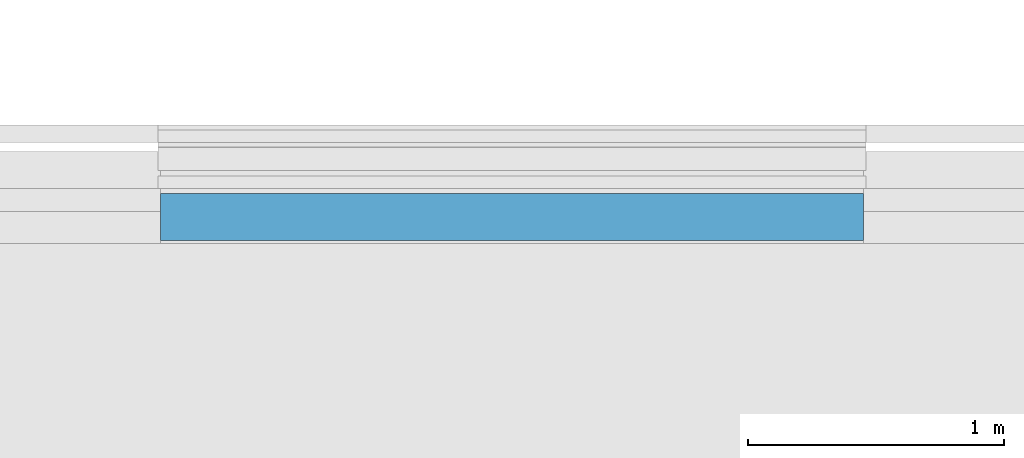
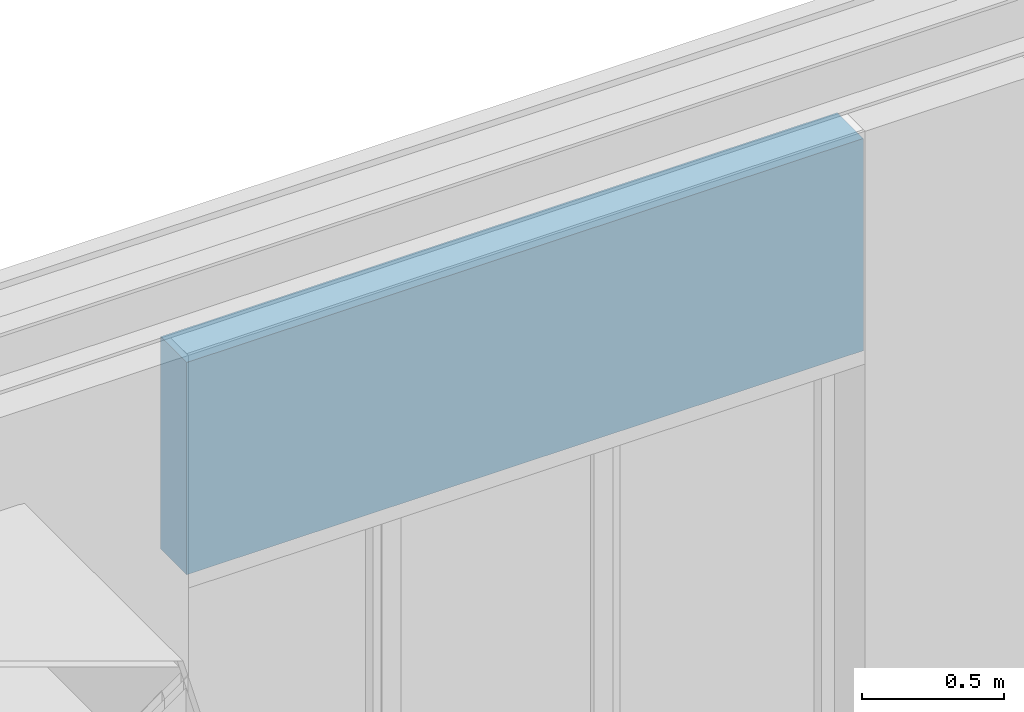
# One storey, part 84 of 165: 1 building element part, 1 element without a shape of its own.
"""IFC2X3 building model written with IfcOpenShell, lengths in millimetres."""

import ifcopenshell
import ifcopenshell.guid

model = None  # the IFC model being written
_history = None  # IfcOwnerHistory: only IFC2X3 demands one
_inside = {}  # id of a spatial element -> (the spatial element, [elements in it])
_under = {}  # id of a project, library or spatial element -> (it, [spatial elements below it])
_declared = {}  # id of a project -> (the project, [libraries it declares])
_typed = {}  # id of a type object -> (the type object, [elements of that type])
_made_of = {}  # id of a material, layer set ... -> (it, [elements and type objects made of it])


def new_model(schema):
    """Start an empty IFC model of exactly this schema.

    Asked for "IFC4X3", IfcOpenShell would pick the latest addendum, in which some entities
    have other attributes; the version numbers below select the first issue.
    IFC2X3 requires an IfcOwnerHistory on every rooted entity: one is made here for all.
    """
    global model, _history
    if schema == "IFC4X3":
        model = ifcopenshell.file(schema_version=(4, 3, 0, 0))
    else:
        model = ifcopenshell.file(schema=schema)
    _inside.clear()
    _under.clear()
    _declared.clear()
    _typed.clear()
    _made_of.clear()
    _history = None
    if model.schema == "IFC2X3":
        org = make("IfcOrganization", Name="unknown")
        user = make(
            "IfcPersonAndOrganization",
            ThePerson=make("IfcPerson", FamilyName="unknown"),
            TheOrganization=org,
        )
        app = make(
            "IfcApplication",
            ApplicationDeveloper=org,
            Version="unknown",
            ApplicationFullName="unknown",
            ApplicationIdentifier="unknown",
        )
        _history = make(
            "IfcOwnerHistory",
            OwningUser=user,
            OwningApplication=app,
            ChangeAction="ADDED",
            CreationDate=0,
        )
    return model


def make(cls, **values):
    """One entity of the class cls with the attributes given. An attribute that is None is left unset."""
    return model.create_entity(
        cls, **{name: value for name, value in values.items() if value is not None}
    )


def entity(cls, *values):
    """Any entity or typed value of the class cls, its attributes in the order of the schema. None: left unset."""
    e = model.create_entity(cls)
    for i, value in enumerate(values):
        if value is not None:
            e[i] = value
    return e


def rooted(cls, **values):
    """An entity with a GlobalId (a new one), such as an element, a storey or a relation."""
    return make(cls, GlobalId=ifcopenshell.guid.new(), OwnerHistory=_history, **values)


def si_unit(unit_type, name, prefix=None):
    """IfcSIUnit, for example si_unit("LENGTHUNIT", "METRE", prefix="MILLI")."""
    return make("IfcSIUnit", UnitType=unit_type, Prefix=prefix, Name=name)


def converted_unit(unit_type, name, factor, base, dimensions=None, offset=None):
    """IfcConversionBasedUnit, such as the inch: factor (a typed value) times the base unit."""
    return make(
        "IfcConversionBasedUnit"
        if offset is None
        else "IfcConversionBasedUnitWithOffset",
        ConversionOffset=offset,
        Dimensions=None
        if dimensions is None
        else entity("IfcDimensionalExponents", *dimensions),
        UnitType=unit_type,
        Name=name,
        ConversionFactor=make(
            "IfcMeasureWithUnit", ValueComponent=factor, UnitComponent=base
        ),
    )


def derived_unit(unit_type, elements):
    """IfcDerivedUnit: a product of units, each with its exponent."""
    return make(
        "IfcDerivedUnit",
        Elements=[
            make("IfcDerivedUnitElement", Unit=unit, Exponent=power)
            for unit, power in elements
        ],
        UnitType=unit_type,
    )


def money_unit(currency):
    """IfcMonetaryUnit."""
    return make("IfcMonetaryUnit", Currency=currency)


def assignment(units):
    """IfcUnitAssignment: the units of a project."""
    return None if units is None else make("IfcUnitAssignment", Units=units)


def point(xyz):
    """IfcCartesianPoint."""
    return None if xyz is None else make("IfcCartesianPoint", Coordinates=xyz)


def direction(xyz):
    """IfcDirection."""
    return None if xyz is None else make("IfcDirection", DirectionRatios=xyz)


def frame(location, z_axis=None, x_axis=None):
    """IfcAxis2Placement3D, a coordinate frame: its origin and axes. An axis left out is left unset."""
    return make(
        "IfcAxis2Placement3D",
        Location=point(location),
        Axis=direction(z_axis),
        RefDirection=direction(x_axis),
    )


def origin_with_axes():
    """The frame at (0, 0, 0) with the z axis (0, 0, 1) and the x axis (1, 0, 0) written out."""
    return frame((0.0, 0.0, 0.0), z_axis=(0.0, 0.0, 1.0), x_axis=(1.0, 0.0, 0.0))


def place(relative_to, where):
    """IfcLocalPlacement: puts the frame where relative to a parent placement (None: the world)."""
    return make(
        "IfcLocalPlacement", PlacementRelTo=relative_to, RelativePlacement=where
    )


def context(
    kind, dimensions, precision=None, world=None, true_north=None, identifier=None
):
    """IfcGeometricRepresentationContext, for example the 3D "Model" context."""
    return make(
        "IfcGeometricRepresentationContext",
        ContextIdentifier=identifier,
        ContextType=kind,
        CoordinateSpaceDimension=dimensions,
        Precision=precision,
        WorldCoordinateSystem=world,
        TrueNorth=true_north,
    )


def subcontext(parent, identifier, kind, view, scale=None):
    """IfcGeometricRepresentationSubContext, for example "Body" below "Model"."""
    return make(
        "IfcGeometricRepresentationSubContext",
        ContextIdentifier=identifier,
        ContextType=kind,
        ParentContext=parent,
        TargetScale=scale,
        TargetView=view,
    )


def project(units=None, contexts=None):
    """IfcProject with its units and contexts."""
    return rooted(
        "IfcProject",
        Name="project",
        RepresentationContexts=contexts,
        UnitsInContext=assignment(units),
    )


def spatial(cls, under=None, at=None, **own):
    """A site, building, storey or space (cls), placed at a placement, below another one or the project."""
    s = rooted(cls, ObjectPlacement=at, **own)
    if under is not None:
        _under.setdefault(under.id(), (under, []))[1].append(s)
    return s


def faces_of(points, faces, orient=None, outer=None):
    """IfcFace entities. A face is a list of loops; a loop is a list of indices into points, from 0.

    orient and outer hold one flag for each loop. By default every Orientation is true, the
    first loop of a face is its IfcFaceOuterBound and the others are IfcFaceBound.
    """
    made = []
    for i, loops in enumerate(faces):
        bounds = []
        for j, loop in enumerate(loops):
            is_outer = j == 0 if outer is None else outer[i][j]
            bounds.append(
                make(
                    "IfcFaceOuterBound" if is_outer else "IfcFaceBound",
                    Bound=make("IfcPolyLoop", Polygon=[points[k] for k in loop]),
                    Orientation=True if orient is None else orient[i][j],
                )
            )
        made.append(make("IfcFace", Bounds=bounds))
    return made


def faceted_brep(points, faces, orient=None, outer=None, voids=None):
    """IfcFacetedBrep: a solid bounded by flat faces; with voids (closed shells), ...WithVoids."""
    shared = [point(p) for p in points]
    hull = make("IfcClosedShell", CfsFaces=faces_of(shared, faces, orient, outer))
    if voids is None:
        return make("IfcFacetedBrep", Outer=hull)
    return make(
        "IfcFacetedBrepWithVoids",
        Outer=hull,
        Voids=[
            make(cls, CfsFaces=faces_of(shared, fs, o, b)) for cls, fs, o, b in voids
        ],
    )


def shape(context_of_items, identifier, shape_type, items):
    """IfcShapeRepresentation: the items that make up one representation, for example the "Body"."""
    return make(
        "IfcShapeRepresentation",
        ContextOfItems=context_of_items,
        RepresentationIdentifier=identifier,
        RepresentationType=shape_type,
        Items=items,
    )


def material(Name=None, Category=None):
    """IfcMaterial."""
    return make("IfcMaterial", Name=Name, Category=Category)


def made_of(thing, what):
    """Note that an element or type object is made of a material, layer set ...; save() writes the relation."""
    if what is not None:
        _made_of.setdefault(what.id(), (what, []))[1].append(thing)
    return thing


def type_object(cls, material=None, **own):
    """A type object (cls), such as IfcWallType, which elements share."""
    return made_of(rooted(cls, **own), material)


def element(
    cls,
    number,
    at=None,
    inside=None,
    cuts=None,
    type_object=None,
    material=None,
    context=None,
    identifier="Body",
    shape_type=None,
    held_by="IfcProductDefinitionShape",
    body=None,
    shapes=None,
    **own,
):
    """One element of the class cls, such as IfcWall. Its Tag is "e" and its number.

    at: its placement. inside: the storey or other place that contains it. cuts: it is an
    opening in that element (IfcRelVoidsElement). A single representation is given by context,
    identifier, shape_type and body (its items); several are given by shapes. held_by: the class
    of the entity that holds the representations. save() writes the other relations.
    """
    e = rooted(cls, Tag="e%d" % number, ObjectPlacement=at, **own)
    if body is not None:
        shapes = [shape(context, identifier, shape_type, body)]
    if shapes is not None:
        e.Representation = make(held_by, Representations=shapes)
    if inside is not None:
        _inside.setdefault(inside.id(), (inside, []))[1].append(e)
    if cuts is not None:
        rooted(
            "IfcRelVoidsElement", RelatingBuildingElement=cuts, RelatedOpeningElement=e
        )
    if type_object is not None:
        _typed.setdefault(type_object.id(), (type_object, []))[1].append(e)
    return made_of(e, material)


def aggregate(whole, parts):
    """IfcRelAggregates: a whole, such as a stair, and the parts it consists of."""
    return rooted("IfcRelAggregates", RelatingObject=whole, RelatedObjects=parts)


def save(model, path):
    """Write the relations noted so far, then the file.

    IfcRelAggregates (storeys below a building ...), IfcRelContainedInSpatialStructure (elements
    in a storey), IfcRelDefinesByType, IfcRelAssociatesMaterial and IfcRelDeclares: one each for
    every whole, place, type object, material and project.
    """
    for whole, parts in _under.values():
        aggregate(whole, parts)
    for where, things in _inside.values():
        rooted(
            "IfcRelContainedInSpatialStructure",
            RelatedElements=things,
            RelatingStructure=where,
        )
    for kind, things in _typed.values():
        rooted("IfcRelDefinesByType", RelatedObjects=things, RelatingType=kind)
    for what, things in _made_of.values():
        rooted("IfcRelAssociatesMaterial", RelatedObjects=things, RelatingMaterial=what)
    for by, libraries in _declared.values():
        rooted("IfcRelDeclares", RelatingContext=by, RelatedDefinitions=libraries)
    model.write(path)


model = new_model("IFC2X3")

# Units and contexts
model_context = context("Model", 3, precision=0.01, world=origin_with_axes(), true_north=direction((0.0, 1.0)))
body_context = subcontext(model_context, "Body", "Model", "MODEL_VIEW")
ifc_project = project(units=[si_unit("LENGTHUNIT", "METRE", prefix="MILLI"), si_unit("AREAUNIT", "SQUARE_METRE"), si_unit("VOLUMEUNIT", "CUBIC_METRE"), converted_unit("PLANEANGLEUNIT", "DEGREE", entity("IfcPlaneAngleMeasure", 0.0174532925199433), si_unit("PLANEANGLEUNIT", "RADIAN"), dimensions=[0, 0, 0, 0, 0, 0, 0]), money_unit("EUR"), converted_unit("TIMEUNIT", "Year", entity("IfcTimeMeasure", 31556926.0), si_unit("TIMEUNIT", "SECOND"), dimensions=[0, 0, 1, 0, 0, 0, 0]), si_unit("MASSUNIT", "GRAM", prefix="KILO"), si_unit("THERMODYNAMICTEMPERATUREUNIT", "DEGREE_CELSIUS"), si_unit("LUMINOUSINTENSITYUNIT", "LUMEN"), si_unit("ENERGYUNIT", "JOULE", prefix="MEGA"), derived_unit("THERMALCONDUCTANCEUNIT", [(si_unit("POWERUNIT", "WATT"), 1), (si_unit("LENGTHUNIT", "METRE"), -1), (si_unit("THERMODYNAMICTEMPERATUREUNIT", "KELVIN"), -1)]), derived_unit("SPECIFICHEATCAPACITYUNIT", [(si_unit("ENERGYUNIT", "JOULE"), 1), (si_unit("MASSUNIT", "GRAM", prefix="KILO"), -1), (si_unit("THERMODYNAMICTEMPERATUREUNIT", "KELVIN"), -1)]), derived_unit("MASSDENSITYUNIT", [(si_unit("MASSUNIT", "GRAM", prefix="KILO"), 1), (si_unit("VOLUMEUNIT", "CUBIC_METRE"), -1)])], contexts=[model_context])

# Site, building, storey
site_placement = place(None, origin_with_axes())
site = spatial("IfcSite", under=ifc_project, at=site_placement, Name="Site", CompositionType="ELEMENT")
building_placement = place(site_placement, origin_with_axes())
building = spatial("IfcBuilding", under=site, at=building_placement, Name="Naam gebouw", CompositionType="ELEMENT")
storey_placement = place(building_placement, origin_with_axes())
storey = spatial("IfcBuildingStorey", under=building, at=storey_placement, Name="Begane grond", CompositionType="ELEMENT", Elevation=0.0)

# Beam, building element part
beam_type = type_object("IfcBeamType", Name="31 HSB boven kozijnen 214 x 1000", PredefinedType="BEAM")
beam_placement = place(storey_placement, frame((10424.99942456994, 28961.0, 2600.000000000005), z_axis=(0.0, 0.0, 1.0), x_axis=(0.0, -1.0, 0.0)))
beam = element("IfcBeam", 1, at=beam_placement, inside=storey, type_object=beam_type, Name="28_Balk-x", ObjectType="BEAM")
ifc_material = material(Name="ALG - ISOLATIE")
building_element_part_placement = place(beam_placement, origin_with_axes())
building_element_part = element("IfcBuildingElementPart", 2, at=building_element_part_placement, material=ifc_material, Name="ALG - ISOLATIE", context=body_context, shape_type="Brep", body=[
    faceted_brep([(-12.00000000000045, 2750.000000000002, 49.99999999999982), (-12.00000000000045, 2750.000000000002, 961.9999999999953), (-12.00000000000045, 0.0, 961.9999999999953), (-12.00000000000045, 0.0, 49.99999999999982), (-196.0000000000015, 2750.000000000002, 49.99999999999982), (-196.0000000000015, 2750.000000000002, 961.9999999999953), (-196.0000000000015, 0.0, 961.9999999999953), (-195.999999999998, 0.0, 49.99999999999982)], [[[0, 1, 2, 3]], [[0, 4, 5, 1]], [[1, 5, 6, 2]], [[3, 2, 6, 7]], [[4, 0, 3, 7]], [[5, 4, 7, 6]]]),
])
aggregate(beam, [building_element_part])

save(model, "model.ifc")
